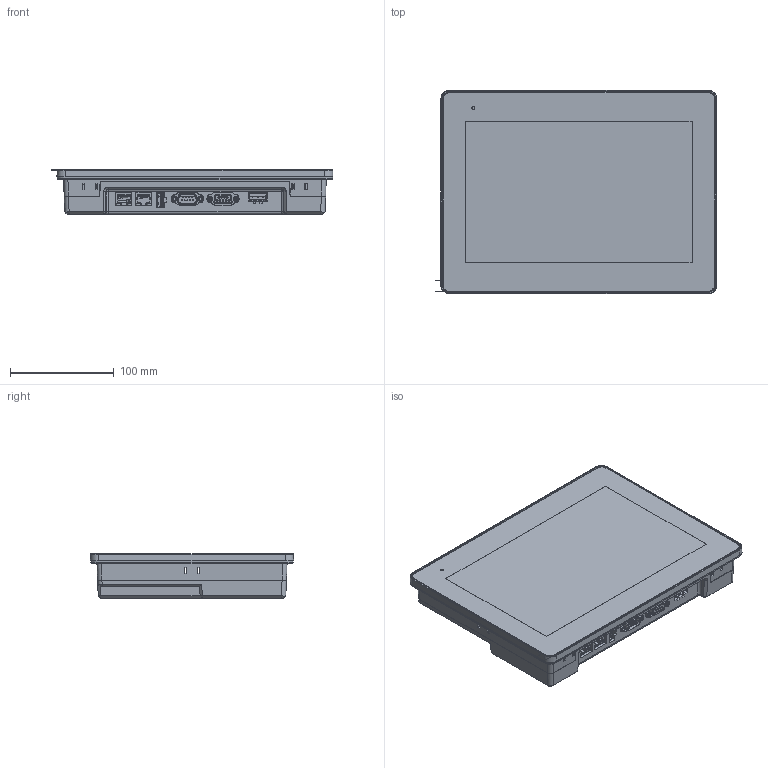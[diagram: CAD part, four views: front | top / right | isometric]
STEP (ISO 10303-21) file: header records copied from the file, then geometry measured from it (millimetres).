
FILE_DESCRIPTION (( 'STEP AP214' ), '1' );
FILE_NAME ('cMT3108XP.STEP', '2023-04-19T14:41:22', ( '' ), ( '' ), 'SwSTEP 2.0', 'SolidWorks 2019', '' );
FILE_SCHEMA (( 'AUTOMOTIVE_DESIGN' ));
Length unit declared in the file: millimetre
Products named in the file (1): cMT3108XP
Bounding box: 271.5 x 195.9 x 42.7 mm (x, y, z)
Surface area: 255007.3 mm2 (no closed solid volume)
Topology: 0 solids, 97 shells, 1438 faces, 6215 edges, 4750 vertices
Faces by surface type: plane 626, cone 332, cylinder 208, torus 146, bspline 102, sphere 24
Entity records: 90852 total; most frequent: CARTESIAN_POINT 27030, DIRECTION 9477, ORIENTED_EDGE 8730, EDGE_CURVE 6171, VERTEX_POINT 4732, VECTOR 3737, LINE 3737, AXIS2_PLACEMENT_3D 2870
